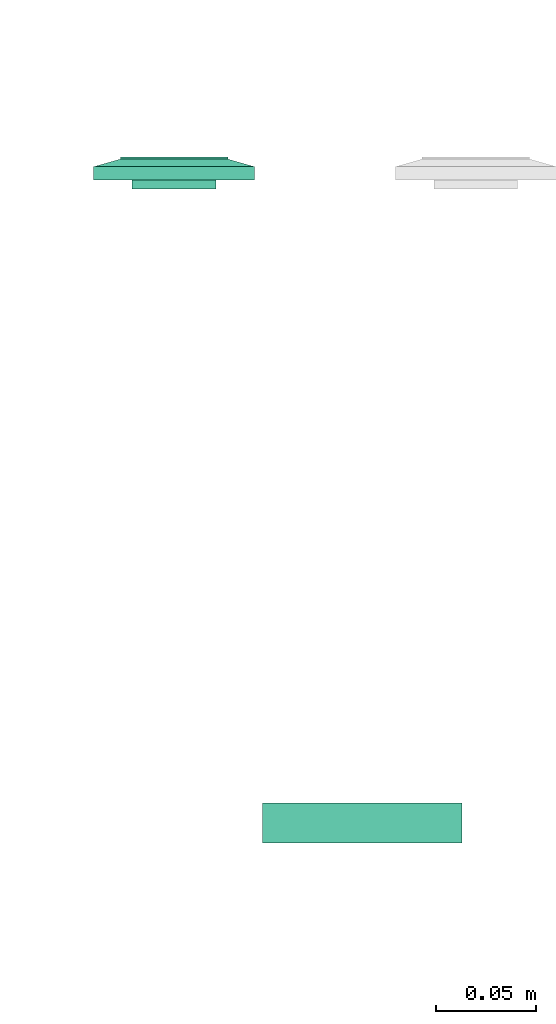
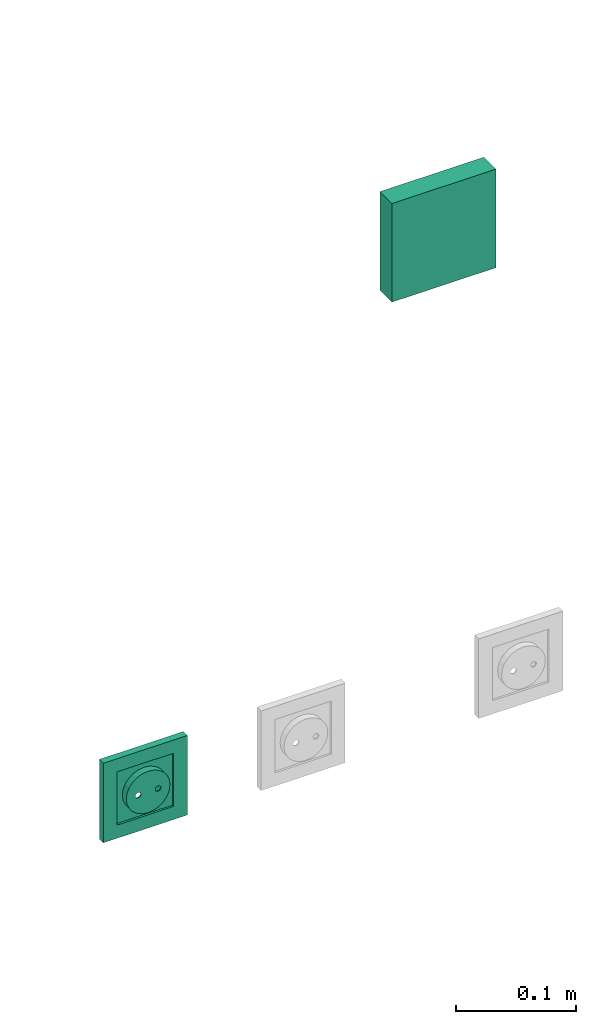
# One storey, part 71 of 146: 2 flow terminals.
"""IFC2X3 building model written with IfcOpenShell, lengths in metres."""

from ifc_helpers import new_model, entity, si_unit, converted_unit, derived_unit, direction, frame, origin, origin_2d_with_axis, place, context, subcontext, project, spatial, rectangle, extrude, face_set, surface_model, source, transform, mapped, type_object, type_shapes, element, save


model = new_model("IFC2X3")

# Units and contexts
model_context = context("Model", 3, precision=1e-05, world=origin(), true_north=direction((6.12303176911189e-17, 1.0)))
body_context = subcontext(model_context, "Body", "Model", "MODEL_VIEW")
ifc_project = project(units=[si_unit("LENGTHUNIT", "METRE"), si_unit("AREAUNIT", "SQUARE_METRE"), si_unit("VOLUMEUNIT", "CUBIC_METRE"), converted_unit("PLANEANGLEUNIT", "DEGREE", entity("IfcRatioMeasure", 0.0174532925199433), si_unit("PLANEANGLEUNIT", "RADIAN"), dimensions=[0, 0, 0, 0, 0, 0, 0]), si_unit("MASSUNIT", "GRAM", prefix="KILO"), derived_unit("MASSDENSITYUNIT", [(si_unit("MASSUNIT", "GRAM", prefix="KILO"), 1), (si_unit("LENGTHUNIT", "METRE"), -3)]), si_unit("TIMEUNIT", "SECOND"), si_unit("FREQUENCYUNIT", "HERTZ"), si_unit("THERMODYNAMICTEMPERATUREUNIT", "DEGREE_CELSIUS"), derived_unit("THERMALTRANSMITTANCEUNIT", [(si_unit("MASSUNIT", "GRAM", prefix="KILO"), 1), (si_unit("THERMODYNAMICTEMPERATUREUNIT", "KELVIN"), -1), (si_unit("TIMEUNIT", "SECOND"), -3)]), derived_unit("VOLUMETRICFLOWRATEUNIT", [(si_unit("LENGTHUNIT", "METRE"), 3), (si_unit("TIMEUNIT", "SECOND"), -1)]), si_unit("ELECTRICCURRENTUNIT", "AMPERE"), si_unit("ELECTRICVOLTAGEUNIT", "VOLT"), si_unit("POWERUNIT", "WATT"), si_unit("FORCEUNIT", "NEWTON"), si_unit("ILLUMINANCEUNIT", "LUX"), si_unit("LUMINOUSFLUXUNIT", "LUMEN"), si_unit("LUMINOUSINTENSITYUNIT", "CANDELA"), derived_unit("USERDEFINED", [(si_unit("MASSUNIT", "GRAM", prefix="KILO"), -1), (si_unit("LENGTHUNIT", "METRE"), -2), (si_unit("TIMEUNIT", "SECOND"), 3), (si_unit("LUMINOUSFLUXUNIT", "LUMEN"), 1)]), derived_unit("LINEARVELOCITYUNIT", [(si_unit("LENGTHUNIT", "METRE"), 1), (si_unit("TIMEUNIT", "SECOND"), -1)]), si_unit("PRESSUREUNIT", "PASCAL"), derived_unit("USERDEFINED", [(si_unit("LENGTHUNIT", "METRE"), -2), (si_unit("MASSUNIT", "GRAM", prefix="KILO"), 1), (si_unit("TIMEUNIT", "SECOND"), -2)])], contexts=[model_context])

# Site, building, storey
site_placement = place(None, origin())
site = spatial("IfcSite", under=ifc_project, at=site_placement, Name="Default", CompositionType="ELEMENT")
building_placement = place(site_placement, origin())
building = spatial("IfcBuilding", under=site, at=building_placement, CompositionType="ELEMENT")
storey_placement = place(building_placement, origin())
storey = spatial("IfcBuildingStorey", under=building, at=storey_placement, Name="S01", CompositionType="ELEMENT", Elevation=0.0)

# Flow terminals
light_fixture_type_1 = type_object("IfcLightFixtureType", Name="IP20 ONDULEE", PredefinedType="NOTDEFINED")
shared_shape_1 = source(origin(), body_context, "Body", "SurfaceModel", [
    surface_model("IfcFaceBasedSurfaceModel", [(-0.00225000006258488, 0.0127499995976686, 0.00949633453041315), (0.0, 0.0104999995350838, 0.00949633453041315), (0.0, 0.0115376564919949, 0.0101656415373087), (0.0, 0.0139623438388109, 0.0101656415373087), (0.0, 0.0144589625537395, 0.00984531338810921), (0.0, 0.0121178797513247, 0.0102778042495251), (0.0, 0.0133821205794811, 0.0102778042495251), (0.0, 0.0127499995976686, 0.010399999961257), (0.0, 0.0149999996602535, 0.00949633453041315), (0.00225000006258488, 0.0127499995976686, 0.00949633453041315), (0.0, 0.0110410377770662, 0.00984531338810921), (0.0, 0.0127499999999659, 0.00949633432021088), (0.00225000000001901, 0.0127499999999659, 0.00949633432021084), (0.00217333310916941, 0.0121676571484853, 0.00949633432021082), (0.00194855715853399, 0.0116249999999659, 0.00949633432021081), (0.00159099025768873, 0.0111590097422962, 0.00949633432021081), (0.001125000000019, 0.010801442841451, 0.00949633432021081), (0.00058234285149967, 0.0105766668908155, 0.00949633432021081), (0.0, 0.0104999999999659, 0.00949633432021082), (-0.000582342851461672, 0.0105766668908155, 0.00949633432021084), (-0.001124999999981, 0.010801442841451, 0.00949633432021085), (-0.00159099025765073, 0.0111590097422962, 0.00949633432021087), (-0.00194855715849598, 0.011624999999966, 0.00949633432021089), (-0.0021733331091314, 0.0121676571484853, 0.00949633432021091), (-0.00224999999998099, 0.012749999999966, 0.00949633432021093), (-0.00217333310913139, 0.0133323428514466, 0.00949633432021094), (-0.00194855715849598, 0.013874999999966, 0.00949633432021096), (-0.00159099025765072, 0.0143409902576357, 0.00949633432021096), (-0.00112499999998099, 0.0146985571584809, 0.00949633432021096), (-0.00058234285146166, 0.0149233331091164, 0.00949633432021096), (0.0, 0.0149999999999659, 0.00949633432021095), (0.000582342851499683, 0.0149233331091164, 0.00949633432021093), (0.00112500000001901, 0.0146985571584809, 0.00949633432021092), (0.00159099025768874, 0.0143409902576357, 0.00949633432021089), (0.001948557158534, 0.0138749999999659, 0.00949633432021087), (0.00217333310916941, 0.0133323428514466, 0.00949633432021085), (0.00225000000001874, 0.0127499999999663, -0.00360000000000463), (0.00217333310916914, 0.0121676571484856, -0.00360000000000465), (0.00194855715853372, 0.0116249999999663, -0.00360000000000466), (0.00159099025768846, 0.0111590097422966, -0.00360000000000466), (0.00112500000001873, 0.0108014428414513, -0.00360000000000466), (0.000582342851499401, 0.0105766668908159, -0.00360000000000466), (0.0, 0.0104999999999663, -0.00360000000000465), (-0.000582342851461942, 0.0105766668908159, -0.00360000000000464), (-0.00112499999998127, 0.0108014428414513, -0.00360000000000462), (-0.001590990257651, 0.0111590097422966, -0.0036000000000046), (-0.00194855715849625, 0.0116249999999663, -0.00360000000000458), (-0.00217333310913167, 0.0121676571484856, -0.00360000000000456), (-0.00224999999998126, 0.0127499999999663, -0.00360000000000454), (-0.00217333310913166, 0.013332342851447, -0.00360000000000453), (-0.00194855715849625, 0.0138749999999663, -0.00360000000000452), (-0.00159099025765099, 0.014340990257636, -0.00360000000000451), (-0.00112499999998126, 0.0146985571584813, -0.00360000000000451), (-0.000582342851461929, 0.0149233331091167, -0.00360000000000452), (0.0, 0.0149999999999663, -0.00360000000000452), (0.000582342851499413, 0.0149233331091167, -0.00360000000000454), (0.00112500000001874, 0.0146985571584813, -0.00360000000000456), (0.00159099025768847, 0.014340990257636, -0.00360000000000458), (0.00194855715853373, 0.0138749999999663, -0.0036000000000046), (0.00217333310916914, 0.013332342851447, -0.00360000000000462), (0.0270000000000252, 0.026999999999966, 0.0113999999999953), (-0.0269999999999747, 0.026999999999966, 0.0113999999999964), (-0.0269999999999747, -0.0270000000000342, 0.0113999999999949), (0.0270000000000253, -0.0270000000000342, 0.0113999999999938), (-0.0199999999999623, 0.0, 0.0113999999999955), (-0.0193185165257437, -0.00517638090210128, 0.0113999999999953), (-0.0173205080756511, -0.0100000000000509, 0.0113999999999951), (-0.0141421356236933, -0.0141421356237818, 0.011399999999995), (-0.00999999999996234, -0.0173205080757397, 0.0113999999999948), (-0.00517638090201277, -0.0193185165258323, 0.0113999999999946), (0.0, -0.0200000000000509, 0.0113999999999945), (0.00517638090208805, -0.0193185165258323, 0.0113999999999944), (0.0100000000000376, -0.0173205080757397, 0.0113999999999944), (0.0141421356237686, -0.0141421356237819, 0.0113999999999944), (0.0173205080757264, -0.010000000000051, 0.0113999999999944), (0.0193185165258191, -0.00517638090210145, 0.0113999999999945), (0.0200000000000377, 0.0, 0.0113999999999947), (0.0193185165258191, 0.00517638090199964, 0.0113999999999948), (0.0173205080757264, 0.0099999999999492, 0.011399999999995), (0.0141421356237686, 0.0141421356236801, 0.0113999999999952), (0.0100000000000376, 0.0173205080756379, 0.0113999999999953), (0.00517638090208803, 0.0193185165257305, 0.0113999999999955), (0.0, 0.0199999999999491, 0.0113999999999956), (-0.00517638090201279, 0.0193185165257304, 0.0113999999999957), (-0.00999999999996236, 0.0173205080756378, 0.0113999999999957), (-0.0141421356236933, 0.01414213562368, 0.0113999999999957), (-0.0173205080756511, 0.00999999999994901, 0.0113999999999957), (-0.0193185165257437, 0.00517638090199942, 0.0113999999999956), (0.0270000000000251, 0.0269999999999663, 0.00199999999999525), (0.0270000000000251, -0.0270000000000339, 0.00199999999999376), (-0.0269999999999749, -0.0270000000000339, 0.00199999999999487), (-0.0269999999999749, 0.0269999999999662, 0.00199999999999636), (0.0210000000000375, 0.0, 0.00199999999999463), (0.0202844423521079, -0.00543519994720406, 0.00199999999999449), (0.0181865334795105, -0.0105000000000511, 0.0019999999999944), (0.0148492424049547, -0.0148492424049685, 0.00199999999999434), (0.0105000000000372, -0.0181865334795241, 0.00199999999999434), (0.0054351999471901, -0.0202844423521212, 0.00199999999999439), (0.0, -0.0210000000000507, 0.00199999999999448), (-0.00543519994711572, -0.020284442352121, 0.00199999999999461), (-0.0104999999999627, -0.0181865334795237, 0.00199999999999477), (-0.0148492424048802, -0.014849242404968, 0.00199999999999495), (-0.0181865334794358, -0.0105000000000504, 0.00199999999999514), (-0.020284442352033, -0.00543519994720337, 0.00199999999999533), (-0.0209999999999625, 0.0, 0.00199999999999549), (-0.0202844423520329, 0.0054351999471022, 0.00199999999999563), (-0.0181865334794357, 0.0104999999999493, 0.00199999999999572), (-0.01484924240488, 0.0148492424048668, 0.00199999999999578), (-0.0104999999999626, 0.0181865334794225, 0.00199999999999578), (-0.00543519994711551, 0.0202844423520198, 0.00199999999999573), (0.0, 0.0209999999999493, 0.00199999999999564), (0.00543519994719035, 0.0202844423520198, 0.00199999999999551), (0.0105000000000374, 0.0181865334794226, 0.00199999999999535), (0.0148492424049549, 0.0148492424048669, 0.00199999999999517), (0.0181865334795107, 0.0104999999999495, 0.00199999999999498), (0.0202844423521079, 0.00543519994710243, 0.00199999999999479), (0.0200000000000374, 0.0, -0.00360000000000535), (0.0193185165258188, -0.00517638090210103, -0.00360000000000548), (0.0173205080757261, -0.0100000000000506, -0.00360000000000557), (0.0141421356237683, -0.0141421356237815, -0.00360000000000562), (0.0100000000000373, -0.0173205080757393, -0.00360000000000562), (0.00517638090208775, -0.0193185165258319, -0.00360000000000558), (0.0, -0.0200000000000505, -0.00360000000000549), (-0.00517638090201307, -0.0193185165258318, -0.00360000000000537), (-0.00999999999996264, -0.0173205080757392, -0.00360000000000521), (-0.0141421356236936, -0.0141421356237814, -0.00360000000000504), (-0.0173205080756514, -0.0100000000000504, -0.00360000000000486), (-0.019318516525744, -0.00517638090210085, -0.00360000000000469), (-0.0199999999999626, 0.0, -0.00360000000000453), (-0.0193185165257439, 0.00517638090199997, -0.0036000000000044), (-0.0173205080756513, 0.00999999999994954, -0.00360000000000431), (-0.0141421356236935, 0.0141421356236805, -0.00360000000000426), (-0.00999999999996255, 0.0173205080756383, -0.00360000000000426), (-0.00517638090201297, 0.0193185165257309, -0.0036000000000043), (0.0, 0.0199999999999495, -0.00360000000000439), (0.00517638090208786, 0.0193185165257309, -0.00360000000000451), (0.0100000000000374, 0.0173205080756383, -0.00360000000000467), (0.0141421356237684, 0.0141421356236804, -0.00360000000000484), (0.0173205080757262, 0.0099999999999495, -0.00360000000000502), (0.0193185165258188, 0.00517638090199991, -0.00360000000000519), (-0.0123499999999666, 0.0, -0.00360000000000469), (-0.0122562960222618, -0.000711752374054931, -0.00360000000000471), (-0.0119815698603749, -0.00137500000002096, -0.00360000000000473), (-0.0115445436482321, -0.00194454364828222, -0.00360000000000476), (-0.0109749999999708, -0.00238156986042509, -0.00360000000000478), (-0.0103117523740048, -0.00265629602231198, -0.0036000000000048), (-0.00959999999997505, -0.00275000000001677, -0.00360000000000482), (-0.0088882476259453, -0.00265629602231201, -0.00360000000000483), (-0.00822499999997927, -0.00238156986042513, -0.00360000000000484), (-0.00765545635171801, -0.00194454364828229, -0.00360000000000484), (-0.00721843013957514, -0.00137500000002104, -0.00360000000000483), (-0.00694370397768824, -0.000711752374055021, -0.00360000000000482), (-0.00684999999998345, 0.0, -0.0036000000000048), (-0.00694370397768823, 0.000711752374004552, -0.00360000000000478), (-0.00721843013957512, 0.00137499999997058, -0.00360000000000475), (-0.00765545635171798, 0.00194454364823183, -0.00360000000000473), (-0.00822499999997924, 0.00238156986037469, -0.0036000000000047), (-0.00888824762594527, 0.00265629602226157, -0.00360000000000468), (-0.00959999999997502, 0.00274999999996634, -0.00360000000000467), (-0.0103117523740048, 0.00265629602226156, -0.00360000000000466), (-0.0109749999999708, 0.00238156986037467, -0.00360000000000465), (-0.011544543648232, 0.00194454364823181, -0.00360000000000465), (-0.0119815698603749, 0.00137499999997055, -0.00360000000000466), (-0.0122562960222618, 0.000711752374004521, -0.00360000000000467), (0.00685000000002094, 0.0, -0.00360000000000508), (0.0069437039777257, -0.00071175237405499, -0.0036000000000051), (0.00721843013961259, -0.00137500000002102, -0.00360000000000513), (0.00765545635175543, -0.00194454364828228, -0.00360000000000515), (0.00822500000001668, -0.00238156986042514, -0.00360000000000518), (0.00888824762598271, -0.00265629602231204, -0.0036000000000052), (0.00960000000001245, -0.00275000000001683, -0.00360000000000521), (0.0103117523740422, -0.00265629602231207, -0.00360000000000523), (0.0109750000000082, -0.00238156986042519, -0.00360000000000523), (0.0115445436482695, -0.00194454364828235, -0.00360000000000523), (0.0119815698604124, -0.0013750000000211, -0.00360000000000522), (0.0122562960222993, -0.00071175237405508, -0.00360000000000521), (0.012350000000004, 0.0, -0.00360000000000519), (0.0122562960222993, 0.000711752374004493, -0.00360000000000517), (0.0119815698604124, 0.00137499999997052, -0.00360000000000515), (0.0115445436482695, 0.00194454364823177, -0.00360000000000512), (0.0109750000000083, 0.00238156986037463, -0.0036000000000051), (0.0103117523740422, 0.00265629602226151, -0.00360000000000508), (0.00960000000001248, 0.00274999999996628, -0.00360000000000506), (0.00888824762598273, 0.0026562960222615, -0.00360000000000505), (0.0082250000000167, 0.00238156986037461, -0.00360000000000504), (0.00765545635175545, 0.00194454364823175, -0.00360000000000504), (0.0072184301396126, 0.00137499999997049, -0.00360000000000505), (0.00694370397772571, 0.000711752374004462, -0.00360000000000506), (0.0210000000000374, 0.0, -0.00460000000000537), (0.0202844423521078, -0.00543519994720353, -0.00460000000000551), (0.0181865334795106, -0.0105000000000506, -0.0046000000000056), (0.0148492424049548, -0.0148492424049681, -0.00460000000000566), (0.0105000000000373, -0.0181865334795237, -0.00460000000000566), (0.00543519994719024, -0.0202844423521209, -0.00460000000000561), (0.0, -0.0210000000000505, -0.00460000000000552), (-0.00543519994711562, -0.0202844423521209, -0.00460000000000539), (-0.0104999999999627, -0.0181865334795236, -0.00460000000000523), (-0.0148492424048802, -0.0148492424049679, -0.00460000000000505), (-0.0181865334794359, -0.0105000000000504, -0.00460000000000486), (-0.0202844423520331, -0.00543519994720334, -0.00460000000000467), (-0.0209999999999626, 0.0, -0.00460000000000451), (-0.020284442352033, 0.00543519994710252, -0.00460000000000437), (-0.0181865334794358, 0.0104999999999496, -0.00460000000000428), (-0.0148492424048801, 0.0148492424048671, -0.00460000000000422), (-0.0104999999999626, 0.0181865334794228, -0.00460000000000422), (-0.00543519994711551, 0.02028444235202, -0.00460000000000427), (0.0, 0.0209999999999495, -0.00460000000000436), (0.00543519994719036, 0.02028444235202, -0.00460000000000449), (0.0105000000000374, 0.0181865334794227, -0.00460000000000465), (0.0148492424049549, 0.014849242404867, -0.00460000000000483), (0.0181865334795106, 0.0104999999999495, -0.00460000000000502), (0.0202844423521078, 0.00543519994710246, -0.00460000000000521), (-0.00684999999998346, 0.0, -0.0046000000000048), (-0.00694370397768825, 0.000711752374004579, -0.00460000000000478), (-0.00721843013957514, 0.00137499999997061, -0.00460000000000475), (-0.007655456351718, 0.00194454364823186, -0.00460000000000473), (-0.00822499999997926, 0.00238156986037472, -0.0046000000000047), (-0.00888824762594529, 0.0026562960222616, -0.00460000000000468), (-0.00959999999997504, 0.00274999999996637, -0.00460000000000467), (-0.0103117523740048, 0.00265629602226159, -0.00460000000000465), (-0.0109749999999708, 0.0023815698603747, -0.00460000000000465), (-0.0115445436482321, 0.00194454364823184, -0.00460000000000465), (-0.0119815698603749, 0.00137499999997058, -0.00460000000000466), (-0.0122562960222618, 0.000711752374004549, -0.00460000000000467), (-0.0123499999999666, 0.0, -0.00460000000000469), (-0.0122562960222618, -0.000711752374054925, -0.00460000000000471), (-0.0119815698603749, -0.00137500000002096, -0.00460000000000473), (-0.0115445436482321, -0.00194454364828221, -0.00460000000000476), (-0.0109749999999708, -0.00238156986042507, -0.00460000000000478), (-0.0103117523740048, -0.00265629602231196, -0.0046000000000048), (-0.00959999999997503, -0.00275000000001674, -0.00460000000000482), (-0.00888824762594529, -0.00265629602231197, -0.00460000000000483), (-0.00822499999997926, -0.00238156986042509, -0.00460000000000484), (-0.007655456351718, -0.00194454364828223, -0.00460000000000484), (-0.00721843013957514, -0.00137500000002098, -0.00460000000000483), (-0.00694370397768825, -0.000711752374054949, -0.00460000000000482), (0.012350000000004, 0.0, -0.00460000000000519), (0.0122562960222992, 0.000711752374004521, -0.00460000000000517), (0.0119815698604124, 0.00137499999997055, -0.00460000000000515), (0.0115445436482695, 0.0019445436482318, -0.00460000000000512), (0.0109750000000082, 0.00238156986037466, -0.0046000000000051), (0.0103117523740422, 0.00265629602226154, -0.00460000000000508), (0.00960000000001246, 0.00274999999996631, -0.00460000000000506), (0.00888824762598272, 0.00265629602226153, -0.00460000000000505), (0.00822500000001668, 0.00238156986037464, -0.00460000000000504), (0.00765545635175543, 0.00194454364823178, -0.00460000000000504), (0.00721843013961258, 0.00137499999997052, -0.00460000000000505), (0.00694370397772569, 0.00071175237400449, -0.00460000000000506), (0.00685000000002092, 0.0, -0.00460000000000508), (0.00694370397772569, -0.000711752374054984, -0.0046000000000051), (0.00721843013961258, -0.00137500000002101, -0.00460000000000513), (0.00765545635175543, -0.00194454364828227, -0.00460000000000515), (0.00822500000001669, -0.00238156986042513, -0.00460000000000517), (0.00888824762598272, -0.00265629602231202, -0.0046000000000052), (0.00960000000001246, -0.0027500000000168, -0.00460000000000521), (0.0103117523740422, -0.00265629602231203, -0.00460000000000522), (0.0109750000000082, -0.00238156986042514, -0.00460000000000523), (0.0115445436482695, -0.00194454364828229, -0.00460000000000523), (0.0119815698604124, -0.00137500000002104, -0.00460000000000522), (0.0122562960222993, -0.000711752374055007, -0.00460000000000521), (0.040350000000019, 0.0403499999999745, 0.00659999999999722), (0.040350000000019, -0.0403500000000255, 0.00659999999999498), (-0.0403499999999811, -0.0403500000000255, 0.00659999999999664), (-0.0403499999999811, 0.0403499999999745, 0.00659999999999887), (0.027000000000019, 0.0269999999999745, 0.00659999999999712), (-0.0269999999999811, 0.0269999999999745, 0.00659999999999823), (-0.026999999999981, -0.0270000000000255, 0.00659999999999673), (0.027000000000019, -0.0270000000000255, 0.00659999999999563), (0.027000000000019, 0.0269999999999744, 0.0103999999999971), (-0.026999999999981, 0.0269999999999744, 0.0103999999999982), (-0.026999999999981, -0.0270000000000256, 0.0103999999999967), (0.027000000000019, -0.0270000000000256, 0.0103999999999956), (0.040350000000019, 0.0403499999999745, 0.00659999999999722), (0.040350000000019, -0.0403500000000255, 0.00659999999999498), (-0.0403499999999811, -0.0403500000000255, 0.00659999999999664), (-0.0403499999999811, 0.0403499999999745, 0.00659999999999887), (-0.0269999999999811, 0.0269999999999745, 0.00659999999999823), (-0.0269999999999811, -0.0270000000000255, 0.00659999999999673), (0.0270000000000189, -0.0270000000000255, 0.00659999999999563), (0.0270000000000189, 0.0269999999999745, 0.00659999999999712), (0.0403500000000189, 0.0403499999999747, 0.0), (0.0403500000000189, -0.0403500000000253, 0.0), (-0.0403499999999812, -0.0403500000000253, 0.0), (-0.0403499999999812, 0.0403499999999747, 0.0), (0.0270000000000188, 0.0269999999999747, 0.0), (-0.0269999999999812, 0.0269999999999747, 0.0), (-0.0269999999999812, -0.0270000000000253, 0.0), (0.0270000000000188, -0.0270000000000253, 0.0)], [face_set([[[0, 1, 2]], [[3, 4, 2, 5]], [[6, 3, 5, 7]], [[2, 4, 0]], [[4, 8, 0]], [[3, 9, 8]], [[1, 9, 10]], [[2, 3, 6, 7]], [[3, 10, 9]], [[2, 10, 3]], [[11, 1, 0, 8]], [[11, 8, 9, 1]]]), face_set([[[12, 13, 14, 15, 16, 17, 18, 19, 20, 21, 22, 23, 24, 25, 26, 27, 28, 29, 30, 31, 32, 33, 34, 35]], [[36, 37, 38, 39, 40, 41, 42, 43, 44, 45, 46, 47, 48, 49, 50, 51, 52, 53, 54, 55, 56, 57, 58, 59]], [[48, 47, 23, 24]], [[47, 46, 22, 23]], [[45, 44, 20, 21]], [[46, 45, 21, 22]], [[44, 43, 19, 20]], [[18, 19, 43, 42]], [[42, 41, 17, 18]], [[41, 40, 16, 17]], [[39, 38, 14, 15]], [[40, 39, 15, 16]], [[38, 37, 13, 14]], [[12, 13, 37, 36]], [[36, 59, 35, 12]], [[59, 58, 34, 35]], [[57, 56, 32, 33]], [[58, 57, 33, 34]], [[56, 55, 31, 32]], [[30, 31, 55, 54]], [[54, 53, 29, 30]], [[53, 52, 28, 29]], [[51, 50, 26, 27]], [[52, 51, 27, 28]], [[50, 49, 25, 26]], [[24, 25, 49, 48]]]), face_set([[[60, 61, 62, 63], [64, 65, 66, 67, 68, 69, 70, 71, 72, 73, 74, 75, 76, 77, 78, 79, 80, 81, 82, 83, 84, 85, 86, 87]], [[88, 89, 90, 91], [92, 93, 94, 95, 96, 97, 98, 99, 100, 101, 102, 103, 104, 105, 106, 107, 108, 109, 110, 111, 112, 113, 114, 115]], [[61, 60, 88, 91]], [[62, 61, 91, 90]], [[63, 62, 90, 89]], [[60, 63, 89, 88]], [[116, 117, 118, 119, 120, 121, 122, 123, 124, 125, 126, 127, 128, 129, 130, 131, 132, 133, 134, 135, 136, 137, 138, 139], [140, 141, 142, 143, 144, 145, 146, 147, 148, 149, 150, 151, 152, 153, 154, 155, 156, 157, 158, 159, 160, 161, 162, 163], [164, 165, 166, 167, 168, 169, 170, 171, 172, 173, 174, 175, 176, 177, 178, 179, 180, 181, 182, 183, 184, 185, 186, 187]], [[64, 128, 127, 65]], [[65, 127, 126, 66]], [[67, 125, 124, 68]], [[66, 126, 125, 67]], [[68, 124, 123, 69]], [[122, 70, 69, 123]], [[70, 122, 121, 71]], [[71, 121, 120, 72]], [[73, 119, 118, 74]], [[72, 120, 119, 73]], [[74, 118, 117, 75]], [[116, 76, 75, 117]], [[76, 116, 139, 77]], [[77, 139, 138, 78]], [[79, 137, 136, 80]], [[78, 138, 137, 79]], [[80, 136, 135, 81]], [[134, 82, 81, 135]], [[82, 134, 133, 83]], [[83, 133, 132, 84]], [[84, 132, 131, 85]], [[85, 131, 130, 86]], [[130, 129, 87, 86]], [[64, 87, 129, 128]], [[188, 189, 190, 191, 192, 193, 194, 195, 196, 197, 198, 199, 200, 201, 202, 203, 204, 205, 206, 207, 208, 209, 210, 211], [212, 213, 214, 215, 216, 217, 218, 219, 220, 221, 222, 223, 224, 225, 226, 227, 228, 229, 230, 231, 232, 233, 234, 235], [236, 237, 238, 239, 240, 241, 242, 243, 244, 245, 246, 247, 248, 249, 250, 251, 252, 253, 254, 255, 256, 257, 258, 259]], [[200, 199, 103, 104]], [[199, 198, 102, 103]], [[197, 196, 100, 101]], [[198, 197, 101, 102]], [[196, 195, 99, 100]], [[98, 99, 195, 194]], [[194, 193, 97, 98]], [[193, 192, 96, 97]], [[191, 190, 94, 95]], [[192, 191, 95, 96]], [[190, 189, 93, 94]], [[92, 93, 189, 188]], [[188, 211, 115, 92]], [[211, 210, 114, 115]], [[209, 208, 112, 113]], [[210, 209, 113, 114]], [[208, 207, 111, 112]], [[110, 111, 207, 206]], [[206, 205, 109, 110]], [[205, 204, 108, 109]], [[203, 202, 106, 107]], [[204, 203, 107, 108]], [[202, 201, 105, 106]], [[104, 105, 201, 200]], [[141, 225, 226, 142]], [[140, 224, 225, 141]], [[144, 228, 229, 145]], [[143, 227, 228, 144]], [[142, 226, 227, 143]], [[230, 146, 145, 229]], [[149, 233, 232, 148]], [[148, 232, 231, 147]], [[152, 212, 235, 151]], [[151, 235, 234, 150]], [[150, 234, 233, 149]], [[146, 230, 231, 147]], [[154, 214, 213, 153]], [[153, 213, 212, 152]], [[157, 217, 216, 156]], [[156, 216, 215, 155]], [[155, 215, 214, 154]], [[218, 158, 157, 217]], [[160, 220, 221, 161]], [[159, 219, 220, 160]], [[163, 223, 224, 140]], [[162, 222, 223, 163]], [[161, 221, 222, 162]], [[158, 218, 219, 159]], [[166, 250, 249, 165]], [[165, 249, 248, 164]], [[169, 253, 252, 168]], [[168, 252, 251, 167]], [[167, 251, 250, 166]], [[254, 170, 169, 253]], [[172, 256, 257, 173]], [[171, 255, 256, 172]], [[175, 259, 236, 176]], [[174, 258, 259, 175]], [[173, 257, 258, 174]], [[170, 254, 255, 171]], [[177, 237, 238, 178]], [[176, 236, 237, 177]], [[180, 240, 241, 181]], [[179, 239, 240, 180]], [[178, 238, 239, 179]], [[242, 182, 181, 241]], [[185, 245, 244, 184]], [[184, 244, 243, 183]], [[164, 248, 247, 187]], [[187, 247, 246, 186]], [[186, 246, 245, 185]], [[182, 242, 243, 183]]]), face_set([[[260, 261, 262, 263], [264, 265, 266, 267]], [[260, 268, 269, 263]], [[263, 269, 270, 262]], [[262, 270, 271, 261]], [[261, 271, 268, 260]], [[264, 265, 269, 268]], [[265, 266, 270, 269]], [[266, 267, 271, 270]], [[268, 271, 267, 264]]]), face_set([[[272, 273, 274, 275], [276, 277, 278, 279]], [[280, 281, 282, 283], [284, 285, 286, 287]], [[275, 272, 280, 283]], [[274, 275, 283, 282]], [[273, 274, 282, 281]], [[272, 273, 281, 280]], [[284, 285, 276, 279]], [[285, 286, 277, 276]], [[286, 287, 278, 277]], [[279, 278, 287, 284]]])]),
])
type_shapes(light_fixture_type_1, [shared_shape_1])
flow_terminal_1_placement = place(storey_placement, frame((56.4661172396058, -193.177069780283, 0.320000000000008), z_axis=(0.0, 1.0, 0.0), x_axis=(-1.0, 0.0, 0.0)))
element("IfcFlowTerminal", 1, at=flow_terminal_1_placement, inside=storey, type_object=light_fixture_type_1, Name="INT Prise de courant:IP20 ONDULEE", ObjectType="INT Prise de courant:IP20 ONDULEE", context=body_context, shape_type="MappedRepresentation", body=[
    mapped(shared_shape_1, transform((0.0, 0.0, 0.0), scale=1.0)),
])
light_fixture_type_2 = type_object("IfcLightFixtureType", Name="Default", PredefinedType="NOTDEFINED")
shared_shape_2 = source(origin(), body_context, "Body", "SweptSolid", [
    extrude(rectangle(XDim=0.1, YDim=0.1, at=origin_2d_with_axis()), frame((0.0, 0.0, 0.0), z_axis=(0.0, 0.0, 1.0), x_axis=(0.0, 1.0, 0.0)), (0.0, 0.0, 1.0), 0.02),
])
type_shapes(light_fixture_type_2, [shared_shape_2])
flow_terminal_2_placement = place(storey_placement, frame((56.5605071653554, -193.489651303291, 1.05000000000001), z_axis=(0.0, -1.0, 0.0), x_axis=(1.0, 0.0, 0.0)))
element("IfcFlowTerminal", 2, at=flow_terminal_2_placement, inside=storey, type_object=light_fixture_type_2, Name="E_Reader_Badge 1_F_MEPcontent:Default", ObjectType="E_Reader_Badge 1_F_MEPcontent:Default", context=body_context, shape_type="MappedRepresentation", body=[
    mapped(shared_shape_2, transform((0.0, 0.0, 0.0), scale=1.0)),
])

save(model, "model.ifc")
